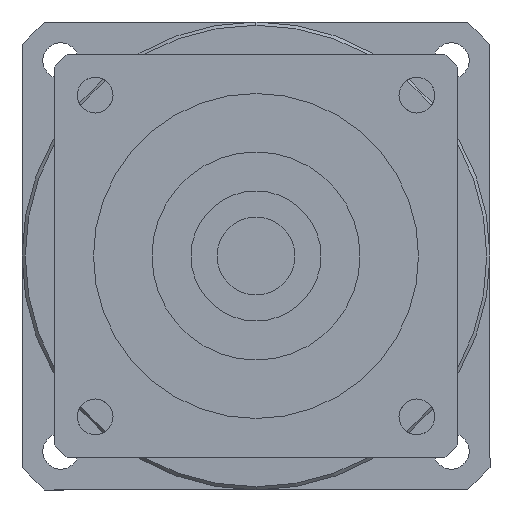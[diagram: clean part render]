
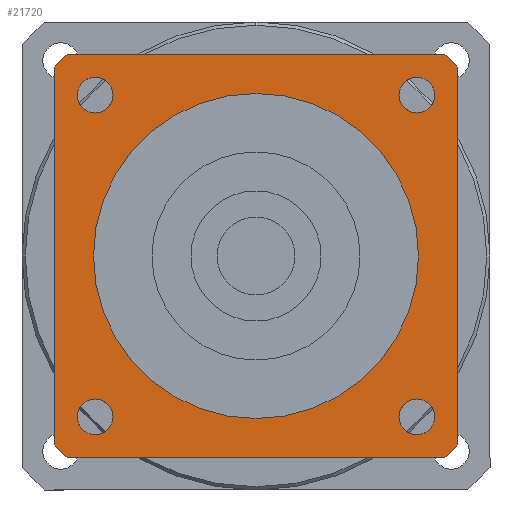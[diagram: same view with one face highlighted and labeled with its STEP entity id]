
A CAD part, left-side view. The second image highlights one B-rep face of the part: STEP entity #21720.
In plain terms, the highlighted planar face has unit normal (-1, 0, 0) as drawn and (0, 0, -1) by its records, which use the part's own axes.
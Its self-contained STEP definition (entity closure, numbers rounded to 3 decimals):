
#15410=CARTESIAN_POINT('',(29.073,31.,-96.5));
#15420=VERTEX_POINT('',#15410);
#15450=CARTESIAN_POINT('',(0.,0.,
-96.5));
#15460=DIRECTION('',(0.,0.,1.));
#15470=DIRECTION('',(0.,-1.,0.));
#15480=AXIS2_PLACEMENT_3D('',#15450,#15460,#15470);
#15490=CIRCLE('',#15480,42.5);
#15500=CARTESIAN_POINT('',(31.,29.073,-96.5));
#15510=VERTEX_POINT('',#15500);
#15520=EDGE_CURVE('',#15510,#15420,#15490,.T.);
#18330=CARTESIAN_POINT('',(-29.073,31.,-96.5));
#18340=VERTEX_POINT('',#18330);
#18420=CARTESIAN_POINT('',(-31.,29.073,-96.5));
#18430=VERTEX_POINT('',#18420);
#18460=CARTESIAN_POINT('',(0.,0.,
-96.5));
#18470=DIRECTION('',(0.,0.,1.));
#18480=DIRECTION('',(0.,-1.,0.));
#18490=AXIS2_PLACEMENT_3D('',#18460,#18470,#18480);
#18500=CIRCLE('',#18490,42.5);
#18510=EDGE_CURVE('',#18340,#18430,#18500,.T.);
#19020=CARTESIAN_POINT('',(-31.,-29.073,-96.5));
#19030=VERTEX_POINT('',#19020);
#19110=CARTESIAN_POINT('',(-29.073,-31.,-96.5));
#19120=VERTEX_POINT('',#19110);
#19150=CARTESIAN_POINT('',(0.,0.,
-96.5));
#19160=DIRECTION('',(0.,0.,1.));
#19170=DIRECTION('',(0.,-1.,0.));
#19180=AXIS2_PLACEMENT_3D('',#19150,#19160,#19170);
#19190=CIRCLE('',#19180,42.5);
#19200=EDGE_CURVE('',#19030,#19120,#19190,.T.);
#19670=CARTESIAN_POINT('',(29.073,-31.,-96.5));
#19680=VERTEX_POINT('',#19670);
#19760=CARTESIAN_POINT('',(31.,-29.073,-96.5));
#19770=VERTEX_POINT('',#19760);
#19800=CARTESIAN_POINT('',(0.,0.,
-96.5));
#19810=DIRECTION('',(0.,0.,1.));
#19820=DIRECTION('',(0.,-1.,0.));
#19830=AXIS2_PLACEMENT_3D('',#19800,#19810,#19820);
#19840=CIRCLE('',#19830,42.5);
#19850=EDGE_CURVE('',#19680,#19770,#19840,.T.);
#20000=CARTESIAN_POINT('',(31.,-31.,-96.5));
#20010=DIRECTION('',(0.,1.,0.));
#20020=VECTOR('',#20010,1000.);
#20030=LINE('',#20000,#20020);
#20040=EDGE_CURVE('',#19770,#15510,#20030,.T.);
#20190=CARTESIAN_POINT('',(31.,31.,-96.5));
#20200=DIRECTION('',(-1.,0.,0.));
#20210=VECTOR('',#20200,1000.);
#20220=LINE('',#20190,#20210);
#20230=EDGE_CURVE('',#15420,#18340,#20220,.T.);
#20370=CARTESIAN_POINT('',(-24.749,21.999,-96.5));
#20380=VERTEX_POINT('',#20370);
#20470=CARTESIAN_POINT('',(-24.749,27.499,-96.5));
#20480=VERTEX_POINT('',#20470);
#20510=CARTESIAN_POINT('',(-24.749,24.749,-96.5));
#20520=DIRECTION('',(0.,0.,-1.));
#20530=DIRECTION('',(-1.,0.,0.));
#20540=AXIS2_PLACEMENT_3D('',#20510,#20520,#20530);
#20550=CIRCLE('',#20540,2.75);
#20560=CARTESIAN_POINT('',(-27.499,24.749,-96.5));
#20570=VERTEX_POINT('',#20560);
#20580=EDGE_CURVE('',#20570,#20480,#20550,.T.);
#20600=EDGE_CURVE('',#20380,#20570,#20550,.T.);
#20650=CARTESIAN_POINT('',(-31.,31.,-96.5));
#20660=DIRECTION('',(0.,0.,1.));
#20670=DIRECTION('',(-1.,0.,0.));
#20680=AXIS2_PLACEMENT_3D('',#20650,#20660,#20670);
#20690=PLANE('',#20680);
#20700=CARTESIAN_POINT('',(24.749,-24.749,-96.5));
#20710=DIRECTION('',(0.,0.,-1.));
#20720=DIRECTION('',(1.,0.,0.));
#20730=AXIS2_PLACEMENT_3D('',#20700,#20710,#20720);
#20740=CIRCLE('',#20730,2.75);
#20750=CARTESIAN_POINT('',(27.499,-24.749,-96.5));
#20760=VERTEX_POINT('',#20750);
#20770=CARTESIAN_POINT('',(24.749,-27.499,-96.5));
#20780=VERTEX_POINT('',#20770);
#20790=EDGE_CURVE('',#20760,#20780,#20740,.T.);
#20800=ORIENTED_EDGE('',*,*,#20790,.F.);
#20810=CARTESIAN_POINT('',(24.749,-21.999,-96.5));
#20820=VERTEX_POINT('',#20810);
#20830=EDGE_CURVE('',#20780,#20820,#20740,.T.);
#20840=ORIENTED_EDGE('',*,*,#20830,.F.);
#20850=EDGE_CURVE('',#20820,#20760,#20740,.T.);
#20860=ORIENTED_EDGE('',*,*,#20850,.F.);
#20870=EDGE_LOOP('',(#20860,#20840,#20800));
#20880=FACE_BOUND('',#20870,.T.);
#20890=CARTESIAN_POINT('',(24.749,24.749,-96.5));
#20900=DIRECTION('',(0.,0.,-1.));
#20910=DIRECTION('',(0.,1.,0.));
#20920=AXIS2_PLACEMENT_3D('',#20890,#20900,#20910);
#20930=CIRCLE('',#20920,2.75);
#20940=CARTESIAN_POINT('',(24.749,27.499,-96.5));
#20950=VERTEX_POINT('',#20940);
#20960=CARTESIAN_POINT('',(27.499,24.749,-96.5));
#20970=VERTEX_POINT('',#20960);
#20980=EDGE_CURVE('',#20950,#20970,#20930,.T.);
#20990=ORIENTED_EDGE('',*,*,#20980,.F.);
#21000=CARTESIAN_POINT('',(21.999,24.749,-96.5));
#21010=VERTEX_POINT('',#21000);
#21020=EDGE_CURVE('',#20970,#21010,#20930,.T.);
#21030=ORIENTED_EDGE('',*,*,#21020,.F.);
#21040=EDGE_CURVE('',#21010,#20950,#20930,.T.);
#21050=ORIENTED_EDGE('',*,*,#21040,.F.);
#21060=EDGE_LOOP('',(#21050,#21030,#20990));
#21070=FACE_BOUND('',#21060,.T.);
#21080=ORIENTED_EDGE('',*,*,#20580,.F.);
#21090=EDGE_CURVE('',#20480,#20380,#20550,.T.);
#21100=ORIENTED_EDGE('',*,*,#21090,.F.);
#21110=ORIENTED_EDGE('',*,*,#20600,.F.);
#21120=EDGE_LOOP('',(#21110,#21100,#21080));
#21130=FACE_BOUND('',#21120,.T.);
#21140=CARTESIAN_POINT('',(-24.749,-24.749,-96.5));
#21150=DIRECTION('',(0.,0.,-1.));
#21160=DIRECTION('',(0.,-1.,0.));
#21170=AXIS2_PLACEMENT_3D('',#21140,#21150,#21160);
#21180=CIRCLE('',#21170,2.75);
#21190=CARTESIAN_POINT('',(-24.749,-27.499,-96.5));
#21200=VERTEX_POINT('',#21190);
#21210=CARTESIAN_POINT('',(-27.499,-24.749,-96.5));
#21220=VERTEX_POINT('',#21210);
#21230=EDGE_CURVE('',#21200,#21220,#21180,.T.);
#21240=ORIENTED_EDGE('',*,*,#21230,.F.);
#21250=CARTESIAN_POINT('',(-21.999,-24.749,-96.5));
#21260=VERTEX_POINT('',#21250);
#21270=EDGE_CURVE('',#21220,#21260,#21180,.T.);
#21280=ORIENTED_EDGE('',*,*,#21270,.F.);
#21290=EDGE_CURVE('',#21260,#21200,#21180,.T.);
#21300=ORIENTED_EDGE('',*,*,#21290,.F.);
#21310=EDGE_LOOP('',(#21300,#21280,#21240));
#21320=FACE_BOUND('',#21310,.T.);
#21330=ORIENTED_EDGE('',*,*,#19200,.F.);
#21340=CARTESIAN_POINT('',(-31.,-31.,-96.5));
#21350=DIRECTION('',(1.,0.,0.));
#21360=VECTOR('',#21350,1000.);
#21370=LINE('',#21340,#21360);
#21380=EDGE_CURVE('',#19120,#19680,#21370,.T.);
#21390=ORIENTED_EDGE('',*,*,#21380,.F.);
#21400=ORIENTED_EDGE('',*,*,#19850,.F.);
#21410=ORIENTED_EDGE('',*,*,#20040,.F.);
#21420=ORIENTED_EDGE('',*,*,#15520,.F.);
#21430=ORIENTED_EDGE('',*,*,#20230,.F.);
#21440=ORIENTED_EDGE('',*,*,#18510,.F.);
#21450=CARTESIAN_POINT('',(-31.,31.,-96.5));
#21460=DIRECTION('',(0.,-1.,0.));
#21470=VECTOR('',#21460,1000.);
#21480=LINE('',#21450,#21470);
#21490=EDGE_CURVE('',#18430,#19030,#21480,.T.);
#21500=ORIENTED_EDGE('',*,*,#21490,.F.);
#21510=EDGE_LOOP('',(#21500,#21440,#21430,#21420,#21410,#21400,#21390,
#21330));
#21520=FACE_OUTER_BOUND('',#21510,.T.);
#21530=CARTESIAN_POINT('',(0.,0.,
-96.5));
#21540=DIRECTION('',(0.,0.,1.));
#21550=DIRECTION('',(0.,-1.,0.));
#21560=AXIS2_PLACEMENT_3D('',#21530,#21540,#21550);
#21570=CIRCLE('',#21560,25.);
#21580=CARTESIAN_POINT('',(25.,0.,-96.5));
#21590=VERTEX_POINT('',#21580);
#21600=CARTESIAN_POINT('',(-25.,0.,-96.5));
#21610=VERTEX_POINT('',#21600);
#21620=EDGE_CURVE('',#21590,#21610,#21570,.T.);
#21630=ORIENTED_EDGE('',*,*,#21620,.T.);
#21640=CARTESIAN_POINT('',(0.,-25.,-96.5));
#21650=VERTEX_POINT('',#21640);
#21660=EDGE_CURVE('',#21650,#21590,#21570,.T.);
#21670=ORIENTED_EDGE('',*,*,#21660,.T.);
#21680=EDGE_CURVE('',#21610,#21650,#21570,.T.);
#21690=ORIENTED_EDGE('',*,*,#21680,.T.);
#21700=EDGE_LOOP('',(#21690,#21670,#21630));
#21710=FACE_BOUND('',#21700,.T.);
#21720=ADVANCED_FACE('',(#20880,#21070,#21130,#21320,#21520,#21710),
#20690,.F.);
